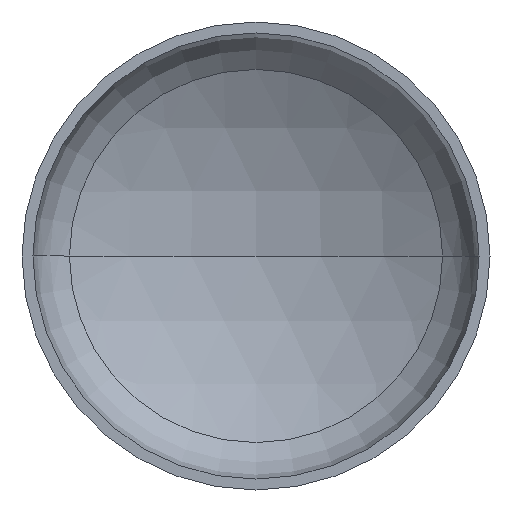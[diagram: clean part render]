
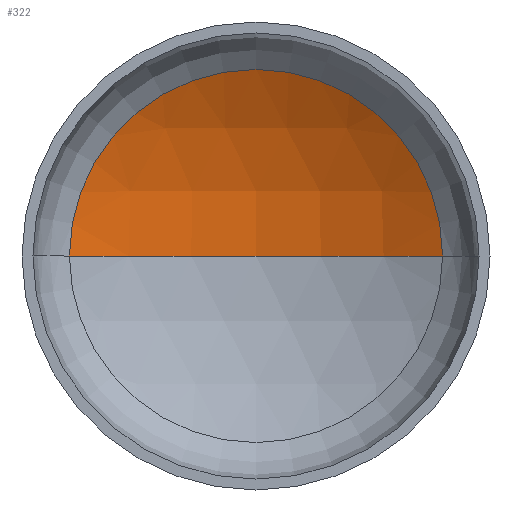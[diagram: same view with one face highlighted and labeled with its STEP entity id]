
A CAD part, front view. The second image highlights one B-rep face of the part: STEP entity #322.
In plain terms, the highlighted spherical face has radius 720 mm.
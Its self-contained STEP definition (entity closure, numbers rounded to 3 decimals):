
#2 = AXIS2_PLACEMENT_3D ( 'NONE', #182, #368, #255 ) ;
#13 = AXIS2_PLACEMENT_3D ( 'NONE', #171, #175, #301 ) ;
#18 = EDGE_LOOP ( 'NONE', ( #36, #156, #26 ) ) ;
#20 = AXIS2_PLACEMENT_3D ( 'NONE', #237, #95, #47 ) ;
#26 = ORIENTED_EDGE ( 'NONE', *, *, #342, .T. ) ;
#33 = VERTEX_POINT ( 'NONE', #250 ) ;
#36 = ORIENTED_EDGE ( 'NONE', *, *, #384, .F. ) ;
#47 = DIRECTION ( 'NONE',  ( -1., 0., 0. ) ) ;
#87 = VERTEX_POINT ( 'NONE', #194 ) ;
#91 = VERTEX_POINT ( 'NONE', #344 ) ;
#95 = DIRECTION ( 'NONE',  ( 0., 0., -1. ) ) ;
#148 = FACE_OUTER_BOUND ( 'NONE', #18, .T. ) ;
#156 = ORIENTED_EDGE ( 'NONE', *, *, #388, .T. ) ;
#171 = CARTESIAN_POINT ( 'NONE',  ( 0., 191.383, 0. ) ) ;
#175 = DIRECTION ( 'NONE',  ( 0., -1., 0. ) ) ;
#182 = CARTESIAN_POINT ( 'NONE',  ( 0., -432.871, 0. ) ) ;
#194 = CARTESIAN_POINT ( 'NONE',  ( 0., 287.129, 0. ) ) ;
#197 = CIRCLE ( 'NONE', #13, 358.759 ) ;
#226 = DIRECTION ( 'NONE',  ( -1., 0., 0. ) ) ;
#237 = CARTESIAN_POINT ( 'NONE',  ( 0., -432.871, 0. ) ) ;
#250 = CARTESIAN_POINT ( 'NONE',  ( -358.759, 191.383, 0. ) ) ;
#251 = CIRCLE ( 'NONE', #2, 720. ) ;
#255 = DIRECTION ( 'NONE',  ( 1., 0., 0. ) ) ;
#266 = SPHERICAL_SURFACE ( 'NONE', #20, 720. ) ;
#275 = CARTESIAN_POINT ( 'NONE',  ( 0., -432.871, 0. ) ) ;
#277 = AXIS2_PLACEMENT_3D ( 'NONE', #275, #382, #226 ) ;
#301 = DIRECTION ( 'NONE',  ( 1., 0., 0. ) ) ;
#314 = CIRCLE ( 'NONE', #277, 720. ) ;
#322 = ADVANCED_FACE ( 'NONE', ( #148 ), #266, .F. ) ;
#342 = EDGE_CURVE ( 'NONE', #91, #33, #197, .T. ) ;
#344 = CARTESIAN_POINT ( 'NONE',  ( 358.759, 191.383, 0. ) ) ;
#368 = DIRECTION ( 'NONE',  ( 0., 0., 1. ) ) ;
#382 = DIRECTION ( 'NONE',  ( 0., 0., -1. ) ) ;
#384 = EDGE_CURVE ( 'NONE', #87, #33, #251, .T. ) ;
#388 = EDGE_CURVE ( 'NONE', #87, #91, #314, .T. ) ;
